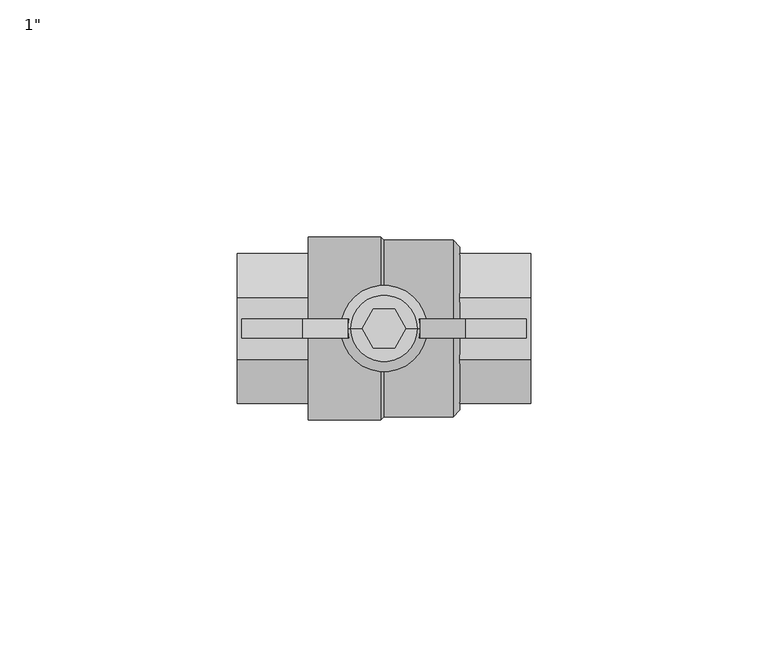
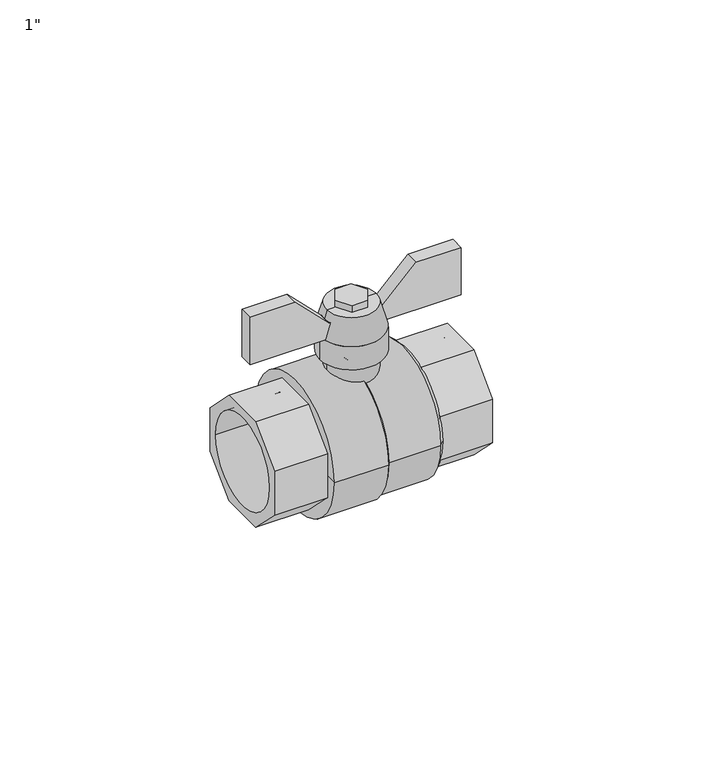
"""IFC4 building model written with IfcOpenShell, lengths in millimetres: pipe fitting geometry."""

import ifcopenshell
import ifcopenshell.guid

model = None  # the IFC model being written
_history = None  # IfcOwnerHistory: only IFC2X3 demands one
_inside = {}  # id of a spatial element -> (the spatial element, [elements in it])
_under = {}  # id of a project, library or spatial element -> (it, [spatial elements below it])
_declared = {}  # id of a project -> (the project, [libraries it declares])
_typed = {}  # id of a type object -> (the type object, [elements of that type])
_made_of = {}  # id of a material, layer set ... -> (it, [elements and type objects made of it])


def new_model(schema):
    """Start an empty IFC model of exactly this schema.

    Asked for "IFC4X3", IfcOpenShell would pick the latest addendum, in which some entities
    have other attributes; the version numbers below select the first issue.
    IFC2X3 requires an IfcOwnerHistory on every rooted entity: one is made here for all.
    """
    global model, _history
    if schema == "IFC4X3":
        model = ifcopenshell.file(schema_version=(4, 3, 0, 0))
    else:
        model = ifcopenshell.file(schema=schema)
    _inside.clear()
    _under.clear()
    _declared.clear()
    _typed.clear()
    _made_of.clear()
    _history = None
    if model.schema == "IFC2X3":
        org = make("IfcOrganization", Name="unknown")
        user = make(
            "IfcPersonAndOrganization",
            ThePerson=make("IfcPerson", FamilyName="unknown"),
            TheOrganization=org,
        )
        app = make(
            "IfcApplication",
            ApplicationDeveloper=org,
            Version="unknown",
            ApplicationFullName="unknown",
            ApplicationIdentifier="unknown",
        )
        _history = make(
            "IfcOwnerHistory",
            OwningUser=user,
            OwningApplication=app,
            ChangeAction="ADDED",
            CreationDate=0,
        )
    return model


def make(cls, **values):
    """One entity of the class cls with the attributes given. An attribute that is None is left unset."""
    return model.create_entity(
        cls, **{name: value for name, value in values.items() if value is not None}
    )


def rooted(cls, **values):
    """An entity with a GlobalId (a new one), such as an element, a storey or a relation."""
    return make(cls, GlobalId=ifcopenshell.guid.new(), OwnerHistory=_history, **values)


def si_unit(unit_type, name, prefix=None):
    """IfcSIUnit, for example si_unit("LENGTHUNIT", "METRE", prefix="MILLI")."""
    return make("IfcSIUnit", UnitType=unit_type, Prefix=prefix, Name=name)


def assignment(units):
    """IfcUnitAssignment: the units of a project."""
    return None if units is None else make("IfcUnitAssignment", Units=units)


def point(xyz):
    """IfcCartesianPoint."""
    return None if xyz is None else make("IfcCartesianPoint", Coordinates=xyz)


def direction(xyz):
    """IfcDirection."""
    return None if xyz is None else make("IfcDirection", DirectionRatios=xyz)


def frame(location, z_axis=None, x_axis=None):
    """IfcAxis2Placement3D, a coordinate frame: its origin and axes. An axis left out is left unset."""
    return make(
        "IfcAxis2Placement3D",
        Location=point(location),
        Axis=direction(z_axis),
        RefDirection=direction(x_axis),
    )


def frame_2d(location, x_axis=None):
    """IfcAxis2Placement2D, a coordinate frame in the plane: its origin and x axis."""
    return make(
        "IfcAxis2Placement2D", Location=point(location), RefDirection=direction(x_axis)
    )


def origin():
    """The frame at (0, 0, 0) with its axes left unset."""
    return frame((0.0, 0.0, 0.0))


def origin_with_axes():
    """The frame at (0, 0, 0) with the z axis (0, 0, 1) and the x axis (1, 0, 0) written out."""
    return frame((0.0, 0.0, 0.0), z_axis=(0.0, 0.0, 1.0), x_axis=(1.0, 0.0, 0.0))


def origin_2d():
    """The frame at (0, 0) in the plane with its x axis left unset."""
    return frame_2d((0.0, 0.0))


def place(relative_to, where):
    """IfcLocalPlacement: puts the frame where relative to a parent placement (None: the world)."""
    return make(
        "IfcLocalPlacement", PlacementRelTo=relative_to, RelativePlacement=where
    )


def context(
    kind, dimensions, precision=None, world=None, true_north=None, identifier=None
):
    """IfcGeometricRepresentationContext, for example the 3D "Model" context."""
    return make(
        "IfcGeometricRepresentationContext",
        ContextIdentifier=identifier,
        ContextType=kind,
        CoordinateSpaceDimension=dimensions,
        Precision=precision,
        WorldCoordinateSystem=world,
        TrueNorth=true_north,
    )


def project(units=None, contexts=None):
    """IfcProject with its units and contexts."""
    return rooted(
        "IfcProject",
        Name="project",
        RepresentationContexts=contexts,
        UnitsInContext=assignment(units),
    )


def spatial(cls, under=None, at=None, **own):
    """A site, building, storey or space (cls), placed at a placement, below another one or the project."""
    s = rooted(cls, ObjectPlacement=at, **own)
    if under is not None:
        _under.setdefault(under.id(), (under, []))[1].append(s)
    return s


def polyline(points):
    """IfcPolyline through the points."""
    return make("IfcPolyline", Points=[point(p) for p in points])


def circle_curve(where, radius):
    """IfcCircle in the frame where."""
    return make("IfcCircle", Position=where, Radius=radius)


def trimmed(basis, trim1, trim2, sense, master):
    """IfcTrimmedCurve: the piece of a basis curve between two trims."""
    return make(
        "IfcTrimmedCurve",
        BasisCurve=basis,
        Trim1=trim1,
        Trim2=trim2,
        SenseAgreement=sense,
        MasterRepresentation=master,
    )


def segment(curve, same_sense, transition):
    """IfcCompositeCurveSegment."""
    return make(
        "IfcCompositeCurveSegment",
        Transition=transition,
        SameSense=same_sense,
        ParentCurve=curve,
    )


def composite_curve(segments, self_intersect=None):
    """IfcCompositeCurve: segments joined end to end."""
    return make("IfcCompositeCurve", Segments=segments, SelfIntersect=self_intersect)


def outline(outer, holes=None, kind="AREA"):
    """IfcArbitraryClosedProfileDef: a profile drawn as a closed curve; with holes, ...WithVoids."""
    if holes is None:
        return make("IfcArbitraryClosedProfileDef", ProfileType=kind, OuterCurve=outer)
    return make(
        "IfcArbitraryProfileDefWithVoids",
        ProfileType=kind,
        OuterCurve=outer,
        InnerCurves=holes,
    )


def extrude(swept, where, along, depth):
    """IfcExtrudedAreaSolid: the profile swept, set in the frame where, extruded along a direction by depth."""
    return make(
        "IfcExtrudedAreaSolid",
        SweptArea=swept,
        Position=where,
        ExtrudedDirection=direction(along),
        Depth=depth,
    )


def shape(context_of_items, identifier, shape_type, items):
    """IfcShapeRepresentation: the items that make up one representation, for example the "Body"."""
    return make(
        "IfcShapeRepresentation",
        ContextOfItems=context_of_items,
        RepresentationIdentifier=identifier,
        RepresentationType=shape_type,
        Items=items,
    )


def source(mapping_origin, context_of_items, identifier, shape_type, items):
    """IfcRepresentationMap: a shape defined once, which mapped items show again and again."""
    return make(
        "IfcRepresentationMap",
        MappingOrigin=mapping_origin,
        MappedRepresentation=shape(context_of_items, identifier, shape_type, items),
    )


def transform(
    local_origin,
    x_axis=None,
    y_axis=None,
    z_axis=None,
    scale=None,
    scale2=None,
    scale3=None,
    uniform=True,
):
    """IfcCartesianTransformationOperator3D, or its non-uniform kind. x_axis, y_axis, z_axis: its Axis1, 2, 3."""
    if uniform:
        return make(
            "IfcCartesianTransformationOperator3D",
            Axis1=direction(x_axis),
            Axis2=direction(y_axis),
            LocalOrigin=point(local_origin),
            Scale=scale,
            Axis3=direction(z_axis),
        )
    return make(
        "IfcCartesianTransformationOperator3DnonUniform",
        Axis1=direction(x_axis),
        Axis2=direction(y_axis),
        LocalOrigin=point(local_origin),
        Scale=scale,
        Axis3=direction(z_axis),
        Scale2=scale2,
        Scale3=scale3,
    )


def mapped(mapping_source, mapping_target):
    """IfcMappedItem: shows the shape of a source again, moved by a transform."""
    return make(
        "IfcMappedItem", MappingSource=mapping_source, MappingTarget=mapping_target
    )


def made_of(thing, what):
    """Note that an element or type object is made of a material, layer set ...; save() writes the relation."""
    if what is not None:
        _made_of.setdefault(what.id(), (what, []))[1].append(thing)
    return thing


def element(
    cls,
    number,
    at=None,
    inside=None,
    cuts=None,
    type_object=None,
    material=None,
    context=None,
    identifier="Body",
    shape_type=None,
    held_by="IfcProductDefinitionShape",
    body=None,
    shapes=None,
    **own,
):
    """One element of the class cls, such as IfcWall. Its Tag is "e" and its number.

    at: its placement. inside: the storey or other place that contains it. cuts: it is an
    opening in that element (IfcRelVoidsElement). A single representation is given by context,
    identifier, shape_type and body (its items); several are given by shapes. held_by: the class
    of the entity that holds the representations. save() writes the other relations.
    """
    e = rooted(cls, Tag="e%d" % number, ObjectPlacement=at, **own)
    if body is not None:
        shapes = [shape(context, identifier, shape_type, body)]
    if shapes is not None:
        e.Representation = make(held_by, Representations=shapes)
    if inside is not None:
        _inside.setdefault(inside.id(), (inside, []))[1].append(e)
    if cuts is not None:
        rooted(
            "IfcRelVoidsElement", RelatingBuildingElement=cuts, RelatedOpeningElement=e
        )
    if type_object is not None:
        _typed.setdefault(type_object.id(), (type_object, []))[1].append(e)
    return made_of(e, material)


def aggregate(whole, parts):
    """IfcRelAggregates: a whole, such as a stair, and the parts it consists of."""
    return rooted("IfcRelAggregates", RelatingObject=whole, RelatedObjects=parts)


def save(model, path):
    """Write the relations noted so far, then the file.

    IfcRelAggregates (storeys below a building ...), IfcRelContainedInSpatialStructure (elements
    in a storey), IfcRelDefinesByType, IfcRelAssociatesMaterial and IfcRelDeclares: one each for
    every whole, place, type object, material and project.
    """
    for whole, parts in _under.values():
        aggregate(whole, parts)
    for where, things in _inside.values():
        rooted(
            "IfcRelContainedInSpatialStructure",
            RelatedElements=things,
            RelatingStructure=where,
        )
    for kind, things in _typed.values():
        rooted("IfcRelDefinesByType", RelatedObjects=things, RelatingType=kind)
    for what, things in _made_of.values():
        rooted("IfcRelAssociatesMaterial", RelatedObjects=things, RelatingMaterial=what)
    for by, libraries in _declared.values():
        rooted("IfcRelDeclares", RelatingContext=by, RelatedDefinitions=libraries)
    model.write(path)


def plane_surface(at):
    """IfcPlane: the flat surface through the origin of the frame at, square to its z axis."""
    return make("IfcPlane", Position=at)


def cylinder_surface(at, radius):
    """IfcCylindricalSurface: all points at the distance radius from the z axis of the frame at."""
    return make("IfcCylindricalSurface", Position=at, Radius=radius)


def revolved_surface(curve, axis_point, axis_direction):
    """IfcSurfaceOfRevolution: the curve turned about the line through axis_point along axis_direction."""
    return make(
        "IfcSurfaceOfRevolution",
        SweptCurve=make("IfcArbitraryOpenProfileDef", ProfileType="CURVE", Curve=curve),
        AxisPosition=make("IfcAxis1Placement", Location=point(axis_point), Axis=direction(axis_direction)),
    )


def advanced_brep(points, edges, surfaces, faces):
    """IfcAdvancedBrep: a solid bounded by faces that lie on surfaces and meet in shared edges.

    An edge is (start, end): straight between two places in points (the first is 0);
    or (start, end, curve); or (start, end, curve, False) where it runs against its curve.
    A face is (place in surfaces, loops), or (place, loops, False) where it looks against
    its surface's normal. A loop lists edges by number (the first is 1), with a minus sign
    where the edge is run from its end to its start. The first loop is the outer one.
    """
    corners = [point(p) for p in points]
    vertices = [make("IfcVertexPoint", VertexGeometry=c) for c in corners]
    made = []
    for start, end, *more in edges:
        made.append(
            make(
                "IfcEdgeCurve",
                EdgeStart=vertices[start],
                EdgeEnd=vertices[end],
                EdgeGeometry=more[0] if more else make("IfcPolyline", Points=[corners[start], corners[end]]),
                SameSense=more[1] if len(more) > 1 else True,
            )
        )
    hull = []
    for where, loops, *sense in faces:
        bounds = []
        for j, loop in enumerate(loops):
            ring = [make("IfcOrientedEdge", EdgeElement=made[abs(k) - 1], Orientation=k > 0) for k in loop]
            bounds.append(
                make(
                    "IfcFaceOuterBound" if j == 0 else "IfcFaceBound",
                    Bound=make("IfcEdgeLoop", EdgeList=ring),
                    Orientation=True,
                )
            )
        hull.append(make("IfcAdvancedFace", Bounds=bounds, FaceSurface=surfaces[where], SameSense=sense[0] if sense else True))
    return make("IfcAdvancedBrep", Outer=make("IfcClosedShell", CfsFaces=hull))


def pipe_fitting_6c45e324(model_context):
    return source(origin(), model_context, "Body", "SolidModel", [
        extrude(outline(polyline([(-4.6165129, 0.0), (-2.25, 4.0989205), (2.25, 4.0989205), (4.6165129, 0.0), (2.25, -4.1010795), (-2.25, -4.1010795), (-4.6165129, 0.0)])), frame((0.0, 0.0, 37.15), z_axis=(0.0, 0.0, 1.0), x_axis=(1.0, 0.0, 0.0)), (0.0, 0.0, 1.0), 2.0),
        extrude(outline(polyline([(29.9, -30.0), (29.9, -3.0), (34.4, -3.0), (34.4, -7.5), (44.05, -17.15), (44.05, -30.0), (29.9, -30.0)])), frame((0.0, -2.0, 0.0), z_axis=(0.0, 1.0, 0.0), x_axis=(0.0, 0.0, 1.0)), (0.0, 0.0, 1.0), 4.0),
        extrude(outline(polyline([(29.9, 30.0), (44.05, 30.0), (44.05, 17.15), (34.4, 7.5), (34.4, 3.0), (29.9, 3.0), (29.9, 30.0)])), frame((0.0, -2.0, 0.0), z_axis=(0.0, 1.0, 0.0), x_axis=(0.0, 0.0, 1.0)), (0.0, 0.0, 1.0), 4.0),
        extrude(outline(polyline([(15.8130988, 6.55), (15.8130988, -6.55), (6.55, -15.8130988), (-6.55, -15.8130988), (-15.8130988, -6.55), (-15.8130988, 6.55), (-6.55, 15.8130988), (6.55, 15.8130988), (15.8130988, 6.55)]), holes=[composite_curve([segment(trimmed(circle_curve(origin_2d(), 13.2), [point((13.2, 0.0))], [point((-13.2, 0.0))], True, "CARTESIAN"), True, "CONTINUOUS"), segment(trimmed(circle_curve(origin_2d(), 13.2), [point((-13.2, 0.0))], [point((13.2, 0.0))], True, "CARTESIAN"), True, "CONTINUOUS")], self_intersect=False)]), frame((-31.0, 0.0, 0.0), z_axis=(1.0, 0.0, 0.0), x_axis=(0.0, 1.0, 0.0)), (0.0, 0.0, 1.0), 15.0),
        advanced_brep(
        [(-9.1, 0.0, 23.0), (9.1, 0.0, 23.0), (0.0, 0.0, 23.0), (0.0, 0.0, 37.15), (7.0, 0.0, 37.15), (-7.0, 0.0, 37.15), (-9.1, 0.0, 29.9), (9.1, 0.0, 29.9)],
        [
            (0, 1, circle_curve(frame((0.0, 0.0, 23.0), z_axis=(0.0, 0.0, -1.0), x_axis=(1.0, 0.0, 0.0)), 9.1)),
            (1, 2),
            (2, 0),
            (1, 0, circle_curve(frame((0.0, 0.0, 23.0), z_axis=(0.0, 0.0, -1.0), x_axis=(1.0, 0.0, 0.0)), 9.1)),
            (3, 4),
            (4, 5, circle_curve(frame((0.0, 0.0, 37.15), z_axis=(0.0, 0.0, 1.0), x_axis=(1.0, 0.0, 0.0)), 7.0)),
            (5, 3),
            (5, 4, circle_curve(frame((0.0, 0.0, 37.15), z_axis=(0.0, 0.0, 1.0), x_axis=(1.0, 0.0, 0.0)), 7.0)),
            (6, 7, circle_curve(frame((0.0, 0.0, 29.9), z_axis=(0.0, 0.0, -1.0), x_axis=(1.0, 0.0, 0.0)), 9.1)),
            (7, 1),
            (0, 6),
            (7, 6, circle_curve(frame((0.0, 0.0, 29.9), z_axis=(0.0, 0.0, -1.0), x_axis=(1.0, 0.0, 0.0)), 9.1)),
            (4, 7),
            (6, 5),
        ],
        [
            plane_surface(frame((0.0, 0.0, 23.0), z_axis=(0.0, 0.0, -1.0), x_axis=(1.0, 0.0, 0.0))),
            plane_surface(frame((0.0, 0.0, 37.15), z_axis=(0.0, 0.0, 1.0), x_axis=(1.0, 0.0, 0.0))),
            cylinder_surface(frame((0.0, 0.0, 2221.0131281), z_axis=(0.0, 0.0, 1.0), x_axis=(1.0, 0.0, 0.0)), 9.1),
            revolved_surface(polyline([(9.1, 0.0, 29.9), (7.0, 0.0, 37.15)]), (0.0, 0.0, 2221.0131281), (0.0, 0.0, 1.0)),
        ],
        [
            (0, [[1, 2, 3]]),
            (0, [[4, -3, -2]]),
            (1, [[5, 6, 7]]),
            (1, [[-7, 8, -5]]),
            (2, [[9, 10, -1, 11]]),
            (2, [[12, -11, -4, -10]]),
            (3, [[-6, 13, -9, 14]]),
            (3, [[-8, -14, -12, -13]]),
        ],
    ),
        extrude(outline(composite_curve([segment(trimmed(circle_curve(origin_2d(), 7.0), [point((-7.0, 0.0))], [point((7.0, 0.0))], False, "CARTESIAN"), True, "CONTINUOUS"), segment(trimmed(circle_curve(origin_2d(), 7.0), [point((7.0, 0.0))], [point((-7.0, 0.0))], False, "CARTESIAN"), True, "CONTINUOUS")], self_intersect=False)), origin_with_axes(), (0.0, 0.0, 1.0), 23.0),
        extrude(outline(polyline([(15.8130988, 6.55), (15.8130988, -6.55), (6.55, -15.8130988), (-6.55, -15.8130988), (-15.8130988, -6.55), (-15.8130988, 6.55), (-6.55, 15.8130988), (6.55, 15.8130988), (15.8130988, 6.55)]), holes=[composite_curve([segment(trimmed(circle_curve(origin_2d(), 13.2), [point((13.2, 0.0))], [point((-13.2, 0.0))], True, "CARTESIAN"), True, "CONTINUOUS"), segment(trimmed(circle_curve(origin_2d(), 13.2), [point((-13.2, 0.0))], [point((13.2, 0.0))], True, "CARTESIAN"), True, "CONTINUOUS")], self_intersect=False)]), frame((16.0, 0.0, 0.0), z_axis=(1.0, 0.0, 0.0), x_axis=(0.0, 1.0, 0.0)), (0.0, 0.0, 1.0), 15.0),
        advanced_brep(
        [(-16.0, -19.34, 0.0), (-16.0, 19.34, 0.0), (-0.7042017, 19.34, 0.0), (-0.7042017, -19.34, 0.0), (-16.0, 0.0, 0.0), (16.0, -17.2157864, 0.0), (16.0, 17.2157864, 0.0), (16.0, 0.0, 0.0), (0.0, -18.63, 0.0), (0.0, 18.63, 0.0), (14.5857864, 18.63, 0.0), (14.5857864, -18.63, 0.0)],
        [
            (0, 1, circle_curve(frame((-16.0, 0.0, 0.0), z_axis=(1.0, 0.0, 0.0), x_axis=(0.0, 1.0, 0.0)), 19.34)),
            (1, 2),
            (2, 3, circle_curve(frame((-0.7042017, 0.0, 0.0), z_axis=(-1.0, 0.0, 0.0), x_axis=(0.0, 1.0, 0.0)), 19.34)),
            (3, 0),
            (1, 0, circle_curve(frame((-16.0, 0.0, 0.0), z_axis=(1.0, 0.0, 0.0), x_axis=(0.0, 1.0, 0.0)), 19.34)),
            (3, 2, circle_curve(frame((-0.7042017, 0.0, 0.0), z_axis=(-1.0, 0.0, 0.0), x_axis=(0.0, 1.0, 0.0)), 19.34)),
            (4, 1),
            (0, 4),
            (5, 6, circle_curve(frame((16.0, 0.0, 0.0), z_axis=(1.0, 0.0, 0.0), x_axis=(0.0, 1.0, 0.0)), 17.2157864)),
            (6, 7),
            (7, 5),
            (6, 5, circle_curve(frame((16.0, 0.0, 0.0), z_axis=(1.0, 0.0, 0.0), x_axis=(0.0, 1.0, 0.0)), 17.2157864)),
            (8, 9, circle_curve(frame((0.0, 0.0, 0.0), z_axis=(1.0, 0.0, 0.0), x_axis=(0.0, 1.0, 0.0)), 18.63)),
            (9, 10),
            (10, 11, circle_curve(frame((14.5857864, 0.0, 0.0), z_axis=(-1.0, 0.0, 0.0), x_axis=(0.0, 1.0, 0.0)), 18.63)),
            (11, 8),
            (9, 8, circle_curve(frame((0.0, 0.0, 0.0), z_axis=(1.0, 0.0, 0.0), x_axis=(0.0, 1.0, 0.0)), 18.63)),
            (11, 10, circle_curve(frame((14.5857864, 0.0, 0.0), z_axis=(-1.0, 0.0, 0.0), x_axis=(0.0, 1.0, 0.0)), 18.63)),
            (10, 6),
            (5, 11),
            (2, 9),
            (8, 3),
        ],
        [
            cylinder_surface(frame((1995.7869923, 0.0, 0.0), z_axis=(-1.0, 0.0, 0.0), x_axis=(0.0, 1.0, 0.0)), 19.34),
            plane_surface(frame((-16.0, 0.0, 0.0), z_axis=(-1.0, 0.0, 0.0), x_axis=(0.0, 1.0, 0.0))),
            plane_surface(frame((16.0, 0.0, 0.0), z_axis=(1.0, 0.0, 0.0), x_axis=(0.0, 1.0, 0.0))),
            cylinder_surface(frame((1995.7869923, 0.0, 0.0), z_axis=(-1.0, 0.0, 0.0), x_axis=(0.0, 1.0, 0.0)), 18.63),
            revolved_surface(polyline([(16.0, 17.2157864, 0.0), (14.5857864, 18.63, 0.0)]), (1995.7869923, 0.0, 0.0), (-1.0, 0.0, 0.0)),
            revolved_surface(polyline([(0.0, 18.63, 0.0), (-0.7042017, 19.34, 0.0)]), (1995.7869923, 0.0, 0.0), (-1.0, 0.0, 0.0)),
        ],
        [
            (0, [[1, 2, 3, 4]]),
            (0, [[5, -4, 6, -2]]),
            (1, [[7, -1, 8]]),
            (1, [[-8, -5, -7]]),
            (2, [[9, 10, 11]]),
            (2, [[12, -11, -10]]),
            (3, [[13, 14, 15, 16]]),
            (3, [[17, -16, 18, -14]]),
            (4, [[-15, 19, -9, 20]]),
            (4, [[-18, -20, -12, -19]]),
            (5, [[-3, 21, -13, 22]]),
            (5, [[-6, -22, -17, -21]]),
        ],
    ),
    ])


if __name__ == "__main__":
    model = new_model("IFC4")
    model_context = context("Model", 3, world=origin())
    ifc_project = project(units=[si_unit("LENGTHUNIT", "METRE", prefix="MILLI")], contexts=[model_context])
    site = spatial("IfcSite", under=ifc_project)
    building = spatial("IfcBuilding", under=site)
    placement = place(None, origin())
    pipe_fitting_shape = pipe_fitting_6c45e324(model_context)
    element("IfcPipeFitting", 1, ObjectType="AmancoWavin_Gas_Válvula Esfera FF Borboleta : 1\"", at=placement, inside=building, context=model_context, shape_type="MappedRepresentation", body=[
        mapped(pipe_fitting_shape, transform((0.0, 0.0, 0.0), x_axis=(1.0, 0.0, 0.0), y_axis=(0.0, 1.0, 0.0), z_axis=(0.0, 0.0, 1.0))),
    ])
    save(model, "model.ifc")
